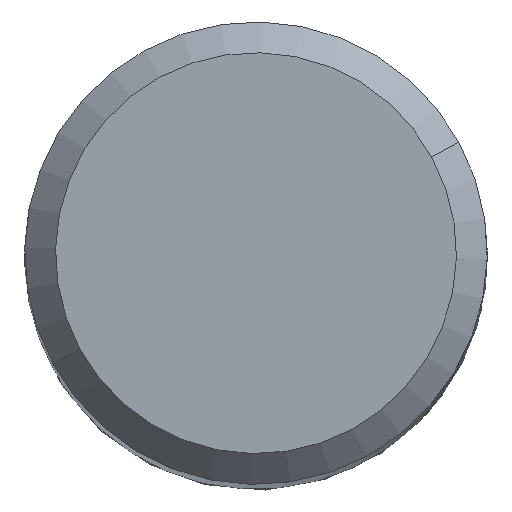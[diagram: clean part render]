
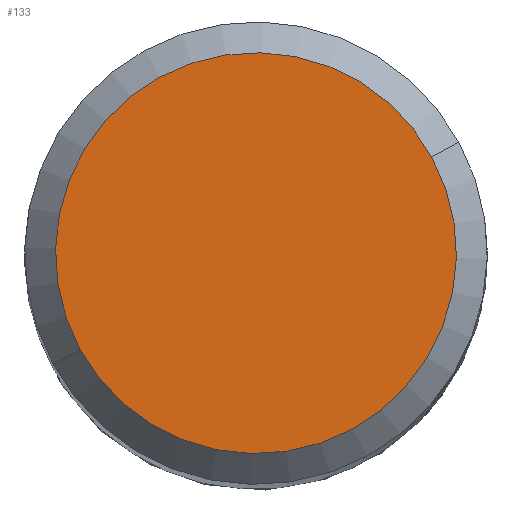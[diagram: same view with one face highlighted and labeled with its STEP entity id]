
A CAD part, top view. The second image highlights one B-rep face of the part: STEP entity #133.
In plain terms, the highlighted planar face has unit normal (0, 0, 1).
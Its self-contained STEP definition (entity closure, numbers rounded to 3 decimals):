
#78=AXIS2_PLACEMENT_3D('Circle Axis2P3D',#76,#77,$) ;
#122=AXIS2_PLACEMENT_3D('Plane Axis2P3D',#119,#120,#121) ;
#126=AXIS2_PLACEMENT_3D('Circle Axis2P3D',#124,#125,$) ;
#76=CARTESIAN_POINT('Axis2P3D Location',(0.,0.,51.)) ;
#80=CARTESIAN_POINT('Vertex',(2.282,1.247,51.)) ;
#82=CARTESIAN_POINT('Vertex',(-2.282,-1.247,51.)) ;
#119=CARTESIAN_POINT('Axis2P3D Location',(2.6,0.,51.)) ;
#124=CARTESIAN_POINT('Axis2P3D Location',(0.,0.,51.)) ;
#77=DIRECTION('Axis2P3D Direction',(0.,0.,-1.)) ;
#120=DIRECTION('Axis2P3D Direction',(0.,0.,1.)) ;
#121=DIRECTION('Axis2P3D XDirection',(1.,0.,0.)) ;
#125=DIRECTION('Axis2P3D Direction',(0.,0.,1.)) ;
#130=ORIENTED_EDGE('',*,*,#84,.T.) ;
#131=ORIENTED_EDGE('',*,*,#128,.T.) ;
#133=ADVANCED_FACE('NOCUT',(#132),#123,.T.) ;
#79=CIRCLE('generated circle',#78,2.6) ;
#127=CIRCLE('generated circle',#126,2.6) ;
#84=EDGE_CURVE('',#81,#83,#79,.F.) ;
#128=EDGE_CURVE('',#83,#81,#127,.T.) ;
#129=EDGE_LOOP('',(#130,#131)) ;
#132=FACE_OUTER_BOUND('',#129,.T.) ;
#123=PLANE('',#122) ;
#81=VERTEX_POINT('',#80) ;
#83=VERTEX_POINT('',#82) ;
